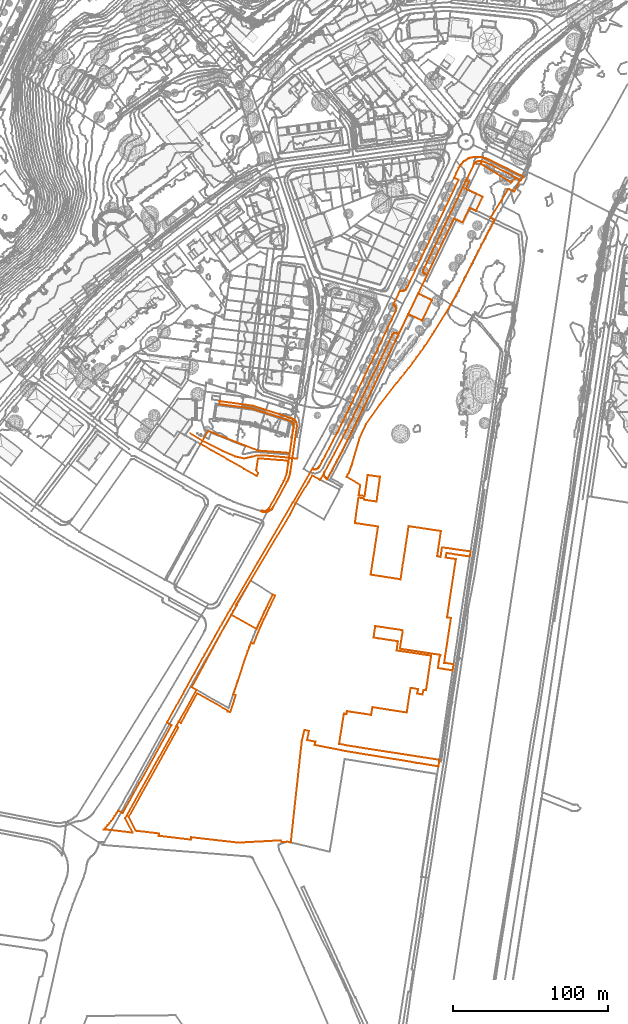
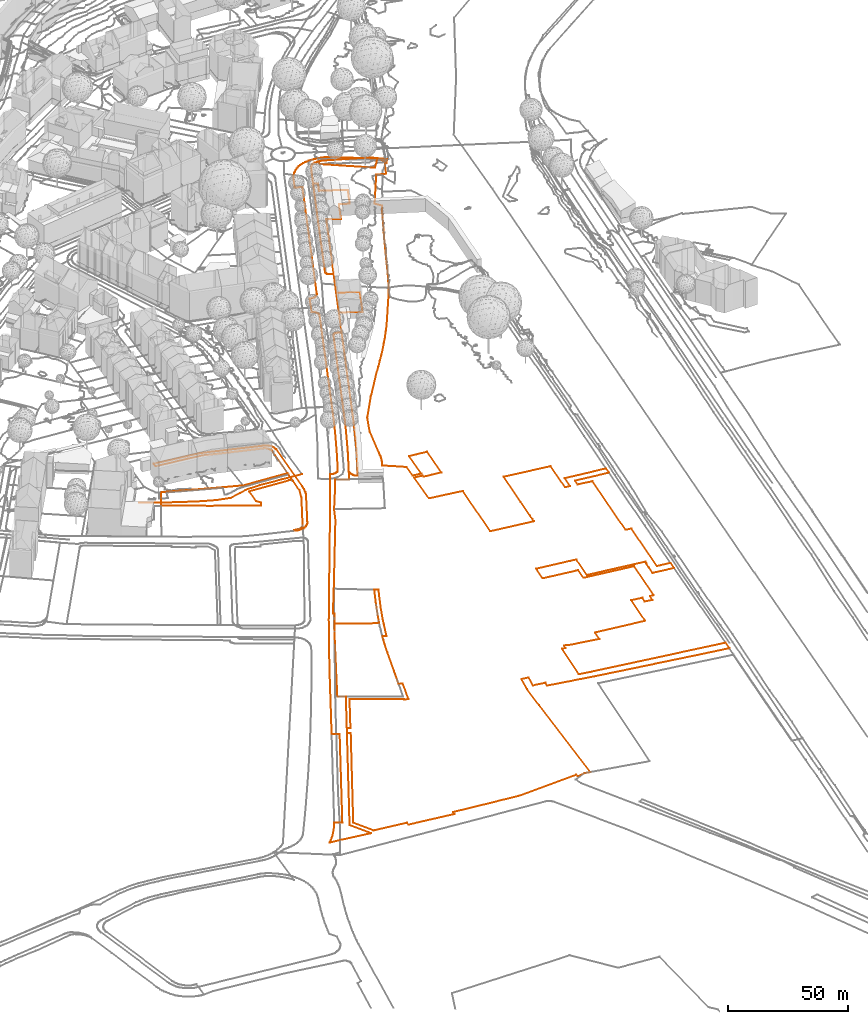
# Not in any storey, part 129 of 477: 4 civil elements, 1 geographic element.
"""IFC4 model written with IfcOpenShell, lengths in metres."""

from ifc_helpers import new_model, entity, si_unit, frame, origin_with_axes, place, context, subcontext, project, spatial, element, save


model = new_model("IFC4")

# Units and contexts
model_context = context("Model", 3, precision=1e-05, world=origin_with_axes())
body_context = subcontext(model_context, "Body", "Model", "MODEL_VIEW")
ifc_project = project(units=[si_unit("AREAUNIT", "SQUARE_METRE"), si_unit("LENGTHUNIT", "METRE")], contexts=[model_context])

# Sites
site_1_placement = place(None, origin_with_axes())
site_1 = spatial("IfcSite", under=ifc_project, at=site_1_placement, Name="Topoexport Site")
site_2_placement = place(site_1_placement, origin_with_axes())
site_2 = spatial("IfcSite", under=site_1, at=site_2_placement, Name="TPX_ROADS")

# Civil element
civil_element_1_placement = place(site_2_placement, frame((406.3957320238, 1.5057431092, 501.889), z_axis=(0.0, 0.0, 1.0), x_axis=(1.0, 0.0, 0.0)))
element("IfcCivilElement", 1, at=civil_element_1_placement, inside=site_2, Name="Road 138", ObjectType="ROAD", context=body_context, shape_type="GeometricCurveSet", body=[
    entity("IfcGeometricCurveSet", [entity("IfcIndexedPolyCurve", entity("IfcCartesianPointList3D", [[0.0, 0.0, 0.0], [8.3330000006, -5.0259998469, 0.107], [21.4310000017, -11.5089996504, 0.026], [29.2360000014, -14.9489995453, 0.119], [35.057, -16.2709995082, -0.014], [40.3480000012, -15.2139995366, -0.021], [43.3910000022, -14.286999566, -0.094], [50.2710000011, -14.5509995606, 0.18], [60.7210000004, -15.4769995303, 0.064], [69.4280000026, -16.4539994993, 0.216]]))]),
])

# Site
site_3_placement = place(site_1_placement, origin_with_axes())
site_3 = spatial("IfcSite", under=site_1, at=site_3_placement, Name="TPX_ROADS_OUTLINES")

# Civil elements
civil_element_2_placement = place(site_3_placement, frame((367.0967320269, -245.9752839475, 502.7995957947), z_axis=(0.0, 0.0, 1.0), x_axis=(1.0, 0.0, 0.0)))
element("IfcCivilElement", 2, at=civil_element_2_placement, inside=site_3, Name="Roads Outline 101", ObjectType="ROAD", context=body_context, shape_type="GeometricCurveSet", body=[
    entity("IfcGeometricCurveSet", [entity("IfcIndexedPolyCurve", entity("IfcCartesianPointList3D", [[0.0, 0.0, 0.0], [32.0149999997, 57.5149999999, -0.4744962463], [30.6259999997, 58.2860000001, -0.457230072], [31.1779999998, 59.2789999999, -0.4641001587], [32.3399999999, 61.372, -0.478540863], [33.676, 60.629, -0.4951756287], [44.1969999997, 79.6599999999, -0.7339577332], [63.9019999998, 68.473, -0.8854646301], [63.7459999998, 67.9979999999, -0.8771333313], [65.477, 67.443, -0.8815313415], [69.085, 78.433, -0.825134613], [67.4479999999, 78.97, -0.8336307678], [70.2929999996, 87.52, -0.7960066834], [70.3629999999, 87.73, -0.7917684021], [70.4569999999, 88.0119999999, -0.7860769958], [74.798, 101.142, -0.8163829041], [76.7879999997, 106.7919999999, -0.8314760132], [77.798, 109.567, -0.8292891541], [78.8469999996, 112.327, -0.8260480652], [80.5209999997, 111.649, -0.8208177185], [82.077, 115.5360000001, -0.8158658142], [83.6829999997, 119.4029999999, -0.790570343], [85.3459999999, 123.267, -0.8630827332], [87.0579999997, 127.1089999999, -0.8948240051], [88.8199999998, 130.929, -0.9121874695], [90.6299999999, 134.726, -0.9255916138], [94.4819999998, 142.6099999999, -0.8724803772], [92.8999999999, 143.3829999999, -0.8973739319], [88.5089999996, 134.3929999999, -0.9099476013], [87.2859999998, 131.757, -0.8972332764], [84.5189999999, 125.7930000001, -0.8238294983], [83.4669999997, 123.4679999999, -0.7838005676], [82.443, 121.1299999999, -0.7998371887], [66.1599999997, 130.297, -0.8550752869], [69.8149999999, 136.5719999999, -0.8131936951], [69.2629999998, 136.9309999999, -0.8222229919], [78.602, 152.3529999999, -0.8259134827], [104.0729999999, 195.1140000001, -0.7927701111], [107.6659999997, 202.419, -0.834775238], [116.0439999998, 216.074, -0.3503568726], [118.3640000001, 220.1939999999, -0.2775869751], [123.577, 217.351, -0.3662952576], [126.2949999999, 222.4949999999, -0.3293559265], [126.1459999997, 222.0279999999, -0.3208528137], [126.0629999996, 221.544, -0.3167319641], [126.048, 221.054, -0.3163890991], [126.0999999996, 220.5659999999, -0.3182276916], [126.2199999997, 220.0900000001, -0.3250758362], [126.3909999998, 219.6610000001, -0.3348344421], [126.6159999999, 219.2579999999, -0.3476747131], [126.892, 218.888, -0.3634254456], [127.2139999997, 218.557, -0.3836967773], [127.5759999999, 218.2709999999, -0.4095144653], [127.9729999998, 218.034, -0.4378283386], [128.1209999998, 218.0900000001, -0.4428831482], [131.102, 223.4569999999, -0.4439338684], [134.014, 228.862, -0.4997281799], [134.872, 230.4879999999, -0.4789324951], [135.7239999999, 232.1159999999, -0.4543615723], [136.8119999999, 234.2069999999, -0.473959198], [137.895, 236.3, -0.4444682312], [141.1069999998, 242.6040000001, -0.4221009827], [144.2609999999, 248.936, -0.6977499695], [147.3589999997, 255.297, -0.6833179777], [151.2149999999, 263.385, -0.6370707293], [174.2029999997, 311.4450000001, -0.2587112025], [180.3799999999, 324.3570000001, -0.2063955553], [180.4039999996, 324.4080000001, -0.2061052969], [189.0109999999, 320.27, -0.4158625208], [189.3079999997, 320.1269999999, -0.4249740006], [195.6189999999, 333.263, -0.4654915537], [186.6939999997, 337.5600000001, -0.2133343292], [186.7679999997, 337.7150000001, -0.2139133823], [192.452, 349.6029999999, -0.2125535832], [209.8449999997, 385.9749999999, -0.2572576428], [211.236, 385.3089999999, -0.3163276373], [215.3619999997, 383.3329999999, -0.5107921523], [219.2949999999, 391.5619999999, -0.4221543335], [219.889, 392.8049999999, -0.4181997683], [223.9679999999, 390.855, -0.36890386], [228.3359999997, 399.9949999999, -0.4775265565], [224.2599999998, 401.9479999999, -0.3371635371], [218.7459999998, 404.5900000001, -0.2361232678], [217.4509999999, 405.1909999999, -0.2374571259], [219.6529999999, 409.821, -0.12318638], [217.7679999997, 410.6839999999, -0.0161093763], [222.6499999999, 420.696, 0.158537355], [222.926, 421.1969999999, 0.165848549], [223.2689999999, 421.6539999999, 0.1751849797], [223.6719999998, 422.0600000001, 0.2138214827], [224.1269999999, 422.406, 0.2664705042], [224.6159999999, 422.6809999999, 0.3177987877], [225.1379999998, 422.8869999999, 0.3339907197], [225.6839999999, 423.02, 0.3225372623], [226.2419999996, 423.078, 0.3221683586], [226.8029999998, 423.0600000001, 0.3337241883], [227.1319999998, 423.0219999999, 0.3480973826], [227.4569999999, 422.96, 0.374179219], [227.1629999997, 421.2789999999, 0.1937921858], [246.733, 409.172, -1.133531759], [249.733, 412.4469999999, 0.7491672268], [252.9529999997, 410.868, -1.6869262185], [253.1029999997, 410.794, -1.76926075], [252.9069999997, 410.4069999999, -1.770265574], [252.3359999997, 410.574, -1.7645869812], [248.7069999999, 403.4239999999, -1.411277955], [244.9809999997, 405.148, -1.6929978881], [244.8829999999, 404.99, -1.8222445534], [233.3599999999, 386.3599999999, -0.9456470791], [236.1409999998, 385.0289999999, -2.1184542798], [235.8509999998, 384.5109999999, -2.1131728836], [235.5629999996, 383.9920000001, -2.1139098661], [233.5999999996, 380.3810000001, -2.0075471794], [231.6939999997, 376.7390000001, -1.9814802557], [225.5659999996, 365.0049999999, -2.0702262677], [221.3319999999, 356.605, -2.0227545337], [217.159, 348.3400000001, -2.1124141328], [213.591, 341.226, -1.9211674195], [208.6119999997, 331.703, -2.1896577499], [207.0919999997, 329.1189999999, -2.2053575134], [197.0449999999, 313.0209999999, -1.1004401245], [195.9869999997, 311.325, -1.1323594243], [193.3879999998, 307.203, -1.0847990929], [190.9379999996, 303.6170000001, -1.0844358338], [188.4399999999, 300.064, -1.0873227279], [185.895, 296.544, -1.0655221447], [183.304, 293.0589999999, -1.0735690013], [180.7139999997, 289.6710000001, -1.0478124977], [178.0799999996, 286.317, -1.0260396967], [175.4029999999, 282.9990000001, -1.0390168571], [172.682, 279.7150000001, -1.0792156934], [161.9439999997, 265.8759999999, -1.1370513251], [153.0619999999, 253.45, -1.1485543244], [148.963, 244.324, -1.1073864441], [144.318, 228.601, -0.8063333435], [143.9779999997, 227.3429999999, -0.780829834], [143.594, 226.098, -0.7463649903], [143.1659999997, 224.868, -0.7079510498], [142.6939999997, 223.6529999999, -0.6458529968], [142.0419999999, 222.159, -0.5540704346], [141.3259999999, 220.6950000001, -0.4530114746], [140.5459999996, 219.263, -0.3555889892], [149.3739999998, 214.138, -1.1143769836], [148.4389999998, 207.4849999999, -1.0664169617], [152.25, 206.952, -1.0728956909], [154.145, 220.48, -1.0624754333], [162.159, 219.358, -0.997186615], [159.9239999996, 203.406, -1.015441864], [151.9099999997, 204.527, -1.0784096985], [152.0289999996, 205.3769999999, -1.0740735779], [148.2179999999, 205.9110000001, -1.0491378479], [145.915, 189.5419999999, -0.9132461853], [160.8629999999, 187.263, -0.9877677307], [156.1549999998, 156.2139999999, -1.0580426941], [175.4279999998, 153.199, -0.8785229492], [175.6679999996, 154.7879999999, -0.868671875], [176.04, 157.5900000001, -0.85340271], [177.625, 167.9579999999, -0.8363509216], [180.6009999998, 187.4609999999, -0.8157518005], [201.4299999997, 184.331, -0.8229301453], [198.9919999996, 168.068, -0.8334049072], [201.2229999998, 167.7309999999, -0.8205296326], [202.1179999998, 173.814, -0.8304761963], [220.5809999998, 171.1809999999, -0.6874589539], [220.0779999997, 167.9099999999, -0.6930319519], [219.9279999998, 167.932, -0.6947348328], [205.0049999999, 170.1499999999, -0.8252933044], [204.5949999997, 167.22, -0.8297476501], [211.0809999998, 166.2390000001, -0.8848924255], [205.3789999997, 128.6510000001, -0.8176105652], [207.906, 128.2479999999, -0.783249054], [203.4989999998, 99.3159999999, -0.8324545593], [209.6299999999, 98.4739999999, -0.8393149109], [209.023, 94.4609999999, -0.8092370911], [199.4929999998, 95.9339999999, -0.8330705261], [200.051, 99.831, -0.8300904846], [200.531, 103.0019999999, -0.8249589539], [200.7379999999, 102.9720000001, -0.8226721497], [201.0859999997, 104.4139999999, -0.8189408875], [175.0349999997, 108.405, -0.8929933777], [176.8419999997, 120.308, -0.8505354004], [174.0629999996, 120.774, -0.8977378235], [159.0819999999, 123.0279999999, -1.0229450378], [157.9729999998, 115.6539999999, -1.0316834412], [161.128, 115.148, -0.9813135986], [173.6979999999, 113.206, -0.8983059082], [172.8289999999, 107.2719999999, -0.8991277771], [195.182, 103.9550000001, -0.8288854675], [191.8089999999, 81.6229999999, -0.7971558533], [190.0969999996, 81.852, -0.8186282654], [189.6299999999, 78.9199999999, -0.8288464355], [186.216, 79.46, -0.797502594], [186.7139999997, 82.3370000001, -0.8000254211], [181.824, 83.155, -0.8230583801], [179.4079999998, 67.294, -0.8227673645], [157.2119999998, 70.683, -1.0387899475], [156.4419999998, 65.747, -1.0524547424], [143.8299999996, 67.6499999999, -0.7675465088], [140.7390000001, 68.1539999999, -0.3782591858], [140.477, 66.2150000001, -0.3474841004], [138.8479999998, 66.476, -0.4013226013], [135.7249999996, 47.0279999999, -0.4543327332], [140.7889999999, 46.0060000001, -0.3841322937], [200.4939999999, 36.7290000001, -0.8253677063], [199.8429999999, 32.531, -0.8312013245], [185.8810000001, 34.828, -0.8006272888], [140.3669999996, 42.3149999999, -0.3345632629], [120.0469999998, 46.3259999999, -0.3212615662], [120.466, 48.446, -0.3086906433], [115.051, 49.5179999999, -0.4346318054], [116.352, 55.334, -0.3320406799], [113.3449999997, 56.007, -0.4951297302], [111.6669999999, 48.574, -0.5777887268], [110.2689999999, 35.9979999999, -0.6493772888], [104.5899999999, -16.5819999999, -0.808539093], [102.1519999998, -16.0460000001, -0.7627313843], [98.5249999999, -16.4510000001, -0.858228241], [98.4569999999, -15.182, -0.8568855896], [70.503, -16.6869999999, -0.7832918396], [40.389, -13.209, -0.6814051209], [40.2109999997, -14.753, -0.6791453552], [19.443, -12.2750000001, -0.3180801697], [19.6199999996, -10.7679999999, -0.3202840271], [4.5729999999, -9.0, -0.0535524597], [0.0, 0.0, 0.0]]))]),
])
civil_element_3_placement = place(site_3_placement, frame((351.0367320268, -254.1292839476, 503.2168255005), z_axis=(0.0, 0.0, 1.0), x_axis=(1.0, 0.0, 0.0)))
element("IfcCivilElement", 3, at=civil_element_3_placement, inside=site_3, Name="Roads Outline 102", ObjectType="ROAD", context=body_context, shape_type="GeometricCurveSet", body=[
    entity("IfcGeometricCurveSet", [entity("IfcIndexedPolyCurve", entity("IfcCartesianPointList3D", [[0.0, 0.0, 0.0], [1.2609999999, 1.331, -0.0638042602], [2.4809999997, 2.6980000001, -0.0910112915], [3.6609999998, 4.101, -0.0978447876], [4.798, 5.5390000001, -0.1066102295], [5.9819999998, 7.138, -0.1389079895], [7.1140000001, 8.7750000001, -0.1655367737], [8.1919999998, 10.4480000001, -0.1853871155], [9.2149999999, 12.155, -0.243539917], [12.1809999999, 10.5260000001, -0.3887371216], [43.6669999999, 67.291, -0.8369002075], [40.7349999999, 68.909, -0.8004057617], [51.8759999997, 89.0390000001, -1.0005606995], [58.4550000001, 100.9990000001, -1.131043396], [65.0899999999, 112.929, -1.0716214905], [71.781, 124.827, -1.1322295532], [76.7420000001, 133.5650000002, -1.1456403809], [81.733, 142.2860000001, -1.2908894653], [99.2139999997, 172.1300000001, -1.1912203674], [121.8689999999, 210.7340000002, -1.2597493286], [134.554, 232.713, -0.6980103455], [134.9240000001, 232.5190000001, -0.7071000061], [135.3169999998, 232.3770000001, -0.7171790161], [135.7259999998, 232.2880000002, -0.7282128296], [136.142, 232.2550000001, -0.7393734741], [136.5600000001, 232.2780000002, -0.724729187], [136.9699999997, 232.3570000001, -0.7103651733], [137.4389999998, 232.52, -0.7146326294], [137.8769999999, 232.757, -0.7297102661], [138.2709999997, 233.0590000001, -0.7466335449], [138.6119999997, 233.4210000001, -0.7671863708], [138.892, 233.8320000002, -0.7840625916], [139.102, 234.2820000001, -0.7967197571], [140.9189999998, 237.595, -0.723994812], [142.7179999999, 240.919, -0.7673012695], [145.3359999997, 245.8490000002, -0.7929735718], [147.912, 250.801, -0.8902315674], [150.5019999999, 255.8390000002, -0.9040008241], [153.0499999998, 260.898, -0.8784210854], [155.7509999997, 266.3740000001, -0.8468294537], [158.4029999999, 271.8730000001, -0.8651366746], [188.4369999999, 334.7180000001, -0.6597456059], [188.571, 335.1700000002, -0.6749855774], [188.6349999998, 335.6360000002, -0.6922962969], [188.6269999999, 336.1070000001, -0.6987726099], [188.5460000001, 336.5720000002, -0.6961793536], [188.3959999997, 337.0180000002, -0.6812479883], [188.1839999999, 337.4300000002, -0.6695233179], [187.912, 337.8060000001, -0.650335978], [187.5869999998, 338.1370000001, -0.6470246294], [187.216, 338.415, -0.6608550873], [186.807, 338.6340000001, -0.6931176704], [191.1000000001, 347.5600000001, -0.7262553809], [191.5490000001, 347.388, -0.7012785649], [192.0189999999, 347.2860000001, -0.677988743], [192.4979999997, 347.2550000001, -0.6759393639], [192.977, 347.2960000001, -0.6829042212], [193.4449999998, 347.4080000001, -0.6760825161], [193.8899999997, 347.5890000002, -0.6613487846], [194.2999999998, 347.8320000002, -0.6479608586], [194.6699999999, 348.1330000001, -0.6524565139], [194.9909999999, 348.486, -0.6663277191], [195.2560000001, 348.882, -0.6823204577], [195.46, 349.3130000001, -0.690844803], [209.8729999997, 379.4280000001, -0.5818723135], [228.7659999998, 419.0050000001, -0.4148632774], [225.9019999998, 420.379, -0.6887152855], [227.4359999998, 423.5520000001, -0.693990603], [228.9750000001, 426.7220000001, -0.655883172], [229.429, 427.5290000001, -0.6334422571], [229.9339999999, 428.3050000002, -0.6227176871], [230.4899999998, 429.0460000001, -0.5972124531], [231.0929999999, 429.7490000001, -0.571365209], [231.7409999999, 430.4100000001, -0.5217758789], [232.4779999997, 431.067, -0.4707066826], [233.2599999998, 431.6700000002, -0.4400006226], [234.0819999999, 432.2170000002, -0.406837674], [234.9410000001, 432.7050000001, -0.3663669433], [235.7960000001, 433.0690000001, -0.350448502], [236.6779999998, 433.3600000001, -0.3054017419], [237.5819999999, 433.577, -0.2611265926], [238.5, 433.7180000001, -0.2430979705], [239.4580000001, 433.8250000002, -0.242356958], [240.4210000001, 433.8660000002, -0.2008647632], [241.3849999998, 433.841, -0.1420476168], [242.3449999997, 433.7510000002, -0.1279702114], [243.3079999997, 433.6470000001, -0.1297651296], [244.264, 433.4980000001, -0.1594958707], [245.213, 433.304, -0.115142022], [246.2590000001, 433.0020000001, -0.0999524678], [247.281, 432.628, -0.0526545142], [248.2760000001, 432.186, -0.015865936], [270.852, 421.085, -2.1960149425], [269.0129999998, 419.0220000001, -2.1041559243], [265.7930000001, 420.601, 0.331937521], [263.3909999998, 421.7790000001, 0.6355931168], [263.463, 421.966, 0.654918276], [246.5830000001, 430.206, 0.0515275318], [245.8100000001, 430.5080000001, 0.0393977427], [245.0209999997, 430.7650000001, 0.1059326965], [244.2739999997, 430.96, 0.0264932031], [243.517, 431.1140000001, -0.0430504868], [243.1919999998, 431.176, -0.0691323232], [242.8629999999, 431.2140000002, -0.0835055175], [242.3019999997, 431.2320000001, -0.0950613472], [241.7439999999, 431.1740000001, -0.0946924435], [241.1979999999, 431.041, -0.0832389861], [240.676, 430.835, -0.0994309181], [240.1869999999, 430.5600000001, -0.1507592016], [239.7319999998, 430.2140000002, -0.2034082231], [239.3289999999, 429.808, -0.2420447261], [238.986, 429.351, -0.2513811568], [238.71, 428.8500000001, -0.2586923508], [233.8279999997, 418.838, -0.4333390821], [206.2590000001, 361.1780000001, -0.632045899], [206.1499999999, 360.9210000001, -0.6170595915], [206.077, 360.652, -0.6108650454], [206.0389999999, 360.3760000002, -0.6140271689], [206.0469999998, 360.02, -0.6134878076], [206.1149999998, 359.6700000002, -0.6120412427], [206.2429999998, 359.338, -0.6129052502], [206.426, 359.0320000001, -0.6118935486], [206.659, 358.763, -0.6073761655], [206.9350000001, 358.5380000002, -0.5968724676], [207.2450000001, 358.3630000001, -0.595981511], [208.5120000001, 357.757, -0.629783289], [202.8279999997, 345.8690000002, -0.6311430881], [202.7539999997, 345.7140000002, -0.630564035], [196.4639999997, 332.5620000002, -0.6233350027], [196.4399999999, 332.5110000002, -0.6236252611], [190.2629999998, 319.5990000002, -0.6759409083], [188.889, 320.112, -0.6476289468], [188.5689999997, 320.2250000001, -0.6470097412], [188.236, 320.2860000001, -0.6486063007], [187.8969999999, 320.294, -0.642269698], [187.5609999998, 320.2480000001, -0.6298667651], [187.1839999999, 320.128, -0.6073320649], [186.835, 319.9410000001, -0.6120658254], [186.5269999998, 319.692, -0.6282297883], [186.2709999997, 319.3910000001, -0.6410105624], [186.074, 319.047, -0.6385171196], [159.7459999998, 264.0530000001, -0.8736812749], [155.9909999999, 256.5420000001, -0.7989420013], [152.1910000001, 249.054, -0.8633403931], [148.9679999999, 242.8900000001, -0.8906522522], [145.6889999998, 236.754, -0.7864668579], [142.355, 230.649, -0.7465856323], [139.6370000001, 225.5050000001, -0.7835249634], [134.4240000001, 228.348, -0.6948166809], [132.1039999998, 224.2280000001, -0.7675865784], [123.7259999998, 210.5730000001, -1.2520049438], [120.1329999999, 203.2680000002, -1.2099998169], [94.662, 160.507, -1.2431431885], [85.3229999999, 145.085, -1.2394526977], [85.875, 144.726, -1.2304234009], [82.2199999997, 138.4510000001, -1.2723049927], [77.6799999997, 130.4000000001, -1.1672857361], [56.6439999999, 91.7180000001, -1.1011104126], [59.7539999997, 89.973, -1.1451659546], [59.6829999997, 89.8460000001, -1.14468927], [48.3999999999, 69.5260000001, -0.8957705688], [47.2379999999, 67.433, -0.8813298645], [46.6859999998, 66.4400000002, -0.8744597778], [13.8509999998, 7.3910000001, -0.4139315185], [18.6839999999, -2.115, -0.4437413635], [4.7969999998, -0.3759999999, -0.106593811], [0.0, 0.0, 0.0]]))]),
])
civil_element_4_placement = place(site_3_placement, frame((425.5947320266, 20.1757160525, 502.3531348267), z_axis=(0.0, 0.0, 1.0), x_axis=(1.0, 0.0, 0.0)))
element("IfcCivilElement", 4, at=civil_element_4_placement, inside=site_3, Name="Roads Outline 105", ObjectType="ROAD", context=body_context, shape_type="GeometricCurveSet", body=[
    entity("IfcGeometricCurveSet", [entity("IfcIndexedPolyCurve", entity("IfcCartesianPointList3D", [[0.0, 0.0, 0.0], [0.216, 2.0119999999, 0.0179441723], [20.2690000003, -0.7880000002, -0.0792583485], [20.6230000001, -0.8390000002, -0.0957378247], [20.9750000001, -0.9000000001, -0.1115795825], [21.3310000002, -0.973, -0.1261259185], [21.6850000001, -1.057, -0.1368588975], [45.4560000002, -8.6540000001, -0.3558693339], [45.8910000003, -8.8, -0.3616100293], [46.3230000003, -8.9530000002, -0.3635631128], [46.9880000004, -9.2050000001, -0.3619636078], [47.6460000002, -9.4740000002, -0.3750334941], [47.9100000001, -9.6060000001, -0.385340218], [48.162, -9.76, -0.3957228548], [48.3630000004, -9.9060000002, -0.4041590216], [48.5530000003, -10.0660000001, -0.412324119], [48.5690000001, -10.084, -0.4129831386], [48.923, -10.5190000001, -0.4038688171], [49.2320000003, -10.9870000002, -0.402665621], [49.4930000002, -11.483, -0.4109163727], [49.7040000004, -12.0020000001, -0.4239549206], [49.8630000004, -12.54, -0.4298864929], [49.9750000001, -13.1510000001, -0.4282862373], [50.02, -13.77, -0.4233631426], [49.997, -14.3900000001, -0.4119629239], [45.9480000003, -42.7070000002, -0.3576572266], [45.7460000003, -43.878, -0.3514556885], [45.4880000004, -45.037, -0.344761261], [45.1920000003, -46.1300000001, -0.3394949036], [44.8460000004, -47.2080000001, -0.3333389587], [44.5819999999, -47.8870000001, -0.3286463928], [44.2990000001, -48.5580000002, -0.3248722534], [43.9110000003, -49.3990000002, -0.3196978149], [43.4920000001, -50.2240000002, -0.315481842], [34.7439999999, -66.3770000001, -0.4494364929], [34.412, -66.9370000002, -0.4510124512], [34.0210000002, -67.4570000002, -0.4471224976], [33.574, -67.9310000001, -0.4429459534], [33.0780000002, -68.3530000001, -0.452921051], [32.5390000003, -68.7170000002, -0.464461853], [31.9620000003, -69.02, -0.4852576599], [31.3560000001, -69.257, -0.4918096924], [31.1070000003, -69.3330000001, -0.4840132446], [30.855, -69.3970000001, -0.4761228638], [30.2239999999, -69.5090000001, -0.4650206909], [29.585, -69.5510000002, -0.4604185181], [28.9450000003, -69.523, -0.4526744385], [28.3120000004, -69.4260000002, -0.4491652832], [27.693, -69.2610000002, -0.4511676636], [26.977, -69.017, -0.4227473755], [27.1470000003, -68.4670000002, -0.4308198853], [27.9270000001, -68.7070000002, -0.4504107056], [28.4010000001, -68.7950000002, -0.4488773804], [28.8810000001, -68.8330000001, -0.4518990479], [29.3620000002, -68.8180000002, -0.457726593], [29.8390000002, -68.753, -0.4622478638], [30.307, -68.6370000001, -0.4656184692], [30.7350000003, -68.4110000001, -0.4723655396], [31.1330000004, -68.1340000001, -0.4848273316], [31.4939999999, -67.811, -0.4961306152], [31.8140000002, -67.4470000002, -0.4905917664], [32.0870000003, -67.047, -0.4807525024], [39.8370000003, -52.797, -0.4080157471], [41.5270000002, -49.6870000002, -0.3711780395], [43.4580000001, -44.6970000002, -0.3155409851], [44.4980000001, -37.6970000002, -0.3275261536], [45.2710000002, -32.4470000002, -0.3409004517], [45.4190000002, -31.4470000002, -0.3435336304], [47.9580000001, -14.1260000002, -0.3843107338], [47.986, -13.6660000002, -0.3952968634], [47.9370000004, -13.2080000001, -0.3933745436], [47.8110000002, -12.7640000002, -0.3853844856], [47.6120000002, -12.348, -0.3765818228], [47.3460000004, -11.9720000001, -0.3680501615], [46.9530000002, -11.564, -0.3592411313], [46.5060000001, -11.216, -0.3383705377], [46.0150000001, -10.9340000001, -0.331852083], [45.4890000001, -10.723, -0.3351811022], [29.4560000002, -5.5560000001, -0.2514919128], [20.8620000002, -2.7860000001, -0.1431336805], [14.5630000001, -1.9670000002, -0.079976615], [0.0, 0.0, 0.0]]))]),
])

# Site
site_4_placement = place(site_1_placement, origin_with_axes())
site_4 = spatial("IfcSite", under=site_1, at=site_4_placement, Name="TPX_CADASTRES")

# Geographic element
geographic_element_placement = place(site_4_placement, frame((413.4387320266, -5.4722839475, 502.0250486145), z_axis=(0.0, 0.0, 1.0), x_axis=(1.0, 0.0, 0.0)))
element("IfcGeographicElement", 5, at=geographic_element_placement, inside=site_4, Name="Cadastre 152", PredefinedType="NOTDEFINED", context=body_context, shape_type="GeometricCurveSet", body=[
    entity("IfcGeometricCurveSet", [entity("IfcIndexedPolyCurve", entity("IfcCartesianPointList3D", [[0.0, 0.0, 0.0], [4.75, 8.371, 0.1848864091], [23.6680000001, 0.9909999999, -0.0354568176], [37.1460000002, -4.2690000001, -0.0099115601], [57.5750000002, -5.7990000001, -0.0154474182], [56.6540000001, -12.0490000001, 0.0005600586], [56.665, -11.8020000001, 0.0004133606], [56.6260000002, -11.558, 0.0009334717], [56.5380000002, -11.327, 0.0021070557], [56.406, -11.118, 0.0038674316], [56.233, -10.9410000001, 0.0061745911], [56.0270000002, -10.804, 0.0089218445], [55.798, -10.7120000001, 0.0119758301], [55.554, -10.669, 0.0124408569], [37.1060000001, -9.2690000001, -0.008657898], [36.0049999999, -16.8490000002, -0.029523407], [37.2450000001, -18.7690000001, -0.0130143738], [36.2250000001, -20.6189999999, -0.0198218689], [28.2460000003, -16.0790000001, -0.0467063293], [17.577, -9.9890000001, -0.1118253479], [6.909, -3.919, 0.0466829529], [0.0, 0.0, 0.0]]))]),
])

save(model, "model.ifc")
